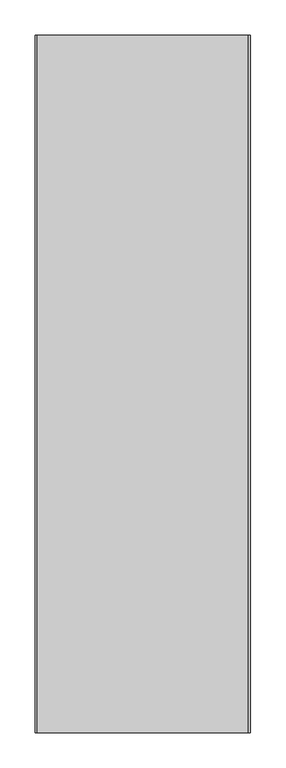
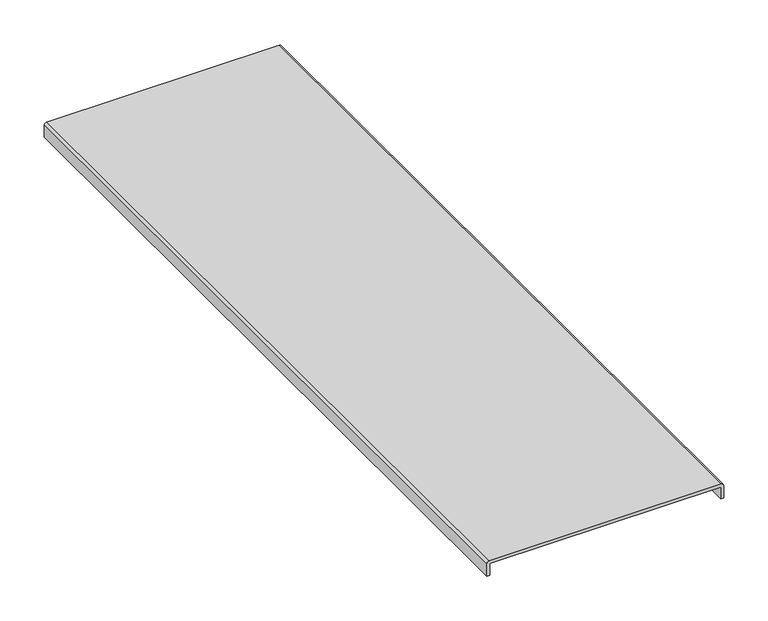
"""IFC4 building model written with IfcOpenShell, lengths in millimetres: proxy geometry, Cable_Tray_Cover_TWT_Basorcanal : Basorcanal TWT 300."""

from ifc_helpers import new_model, si_unit, point, frame, frame_2d, origin, place, context, project, spatial, polyline, circle_curve, trimmed, segment, composite_curve, outline, extrude, source, transform, mapped, element, save


def generic_models_3f045df5(model_context):
    return source(origin(), model_context, "Body", "SweptSolid", [
        extrude(outline(composite_curve([segment(trimmed(circle_curve(frame_2d((-0.5, -149.5)), 0.5), [point((-0.5, -150.0))], [point((0.0, -149.5))], True, "CARTESIAN"), True, "CONTINUOUS"), segment(polyline([(0.0, -149.5), (0.0, 149.5)]), True, "CONTINUOUS"), segment(trimmed(circle_curve(frame_2d((-0.5, 149.5)), 0.5), [point((0.0, 149.5))], [point((-0.5, 150.0))], True, "CARTESIAN"), True, "CONTINUOUS"), segment(polyline([(-0.5, 150.0), (-16.0, 150.0), (-16.0, 154.0), (0.9268922, 154.0)]), True, "CONTINUOUS"), segment(trimmed(circle_curve(frame_2d((0.9268922, 150.9268922)), 3.0731078), [point((0.9268922, 154.0))], [point((4.0, 150.9268922))], False, "CARTESIAN"), True, "CONTINUOUS"), segment(polyline([(4.0, 150.9268922), (4.0, -150.6770801)]), True, "CONTINUOUS"), segment(trimmed(circle_curve(frame_2d((0.6770801, -150.6770801)), 3.3229199), [point((4.0, -150.6770801))], [point((0.6770801, -154.0))], False, "CARTESIAN"), True, "CONTINUOUS"), segment(polyline([(0.6770801, -154.0), (-16.0, -154.0), (-16.0, -150.0), (-0.5, -150.0)]), True, "CONTINUOUS")], self_intersect=False)), frame((0.0, 0.0, 0.0), z_axis=(0.0, 1.0, 0.0), x_axis=(0.0, 0.0, 1.0)), (0.0, 0.0, 1.0), 995.4),
    ])


if __name__ == "__main__":
    model = new_model("IFC4")
    model_context = context("Model", 3, world=origin())
    ifc_project = project(units=[si_unit("LENGTHUNIT", "METRE", prefix="MILLI")], contexts=[model_context])
    site = spatial("IfcSite", under=ifc_project)
    building = spatial("IfcBuilding", under=site)
    placement = place(None, origin())
    generic_models_shape = generic_models_3f045df5(model_context)
    element("IfcBuildingElementProxy", 1, Name="Cable_Tray_Cover_TWT_Basorcanal : Basorcanal TWT 300", ObjectType="Cable_Tray_Cover_TWT_Basorcanal : Basorcanal TWT 300", at=placement, inside=building, context=model_context, shape_type="MappedRepresentation", body=[
        mapped(generic_models_shape, transform((0.0, 0.0, 0.0), x_axis=(1.0, 0.0, 0.0), y_axis=(0.0, 1.0, 0.0), z_axis=(0.0, 0.0, 1.0))),
    ])
    save(model, "model.ifc")
